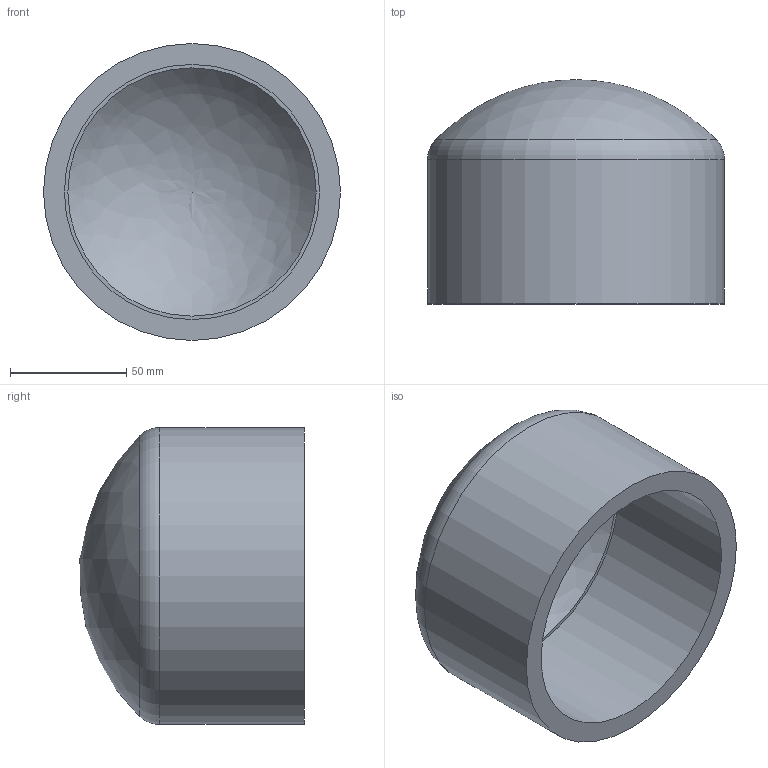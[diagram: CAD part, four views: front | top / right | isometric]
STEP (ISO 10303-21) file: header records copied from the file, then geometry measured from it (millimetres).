
FILE_DESCRIPTION(/* description */ ('PVC calotta incollaggio metrico'),/* implementation_level */ '2;1');
FILE_NAME(/* name */ 'C:\Users\POLYPIPE\Desktop\DATASET INVENTOR\LIBRERIA EFFAST\RACCORDI 3DxWEB\RDR\3D_RDRCAD\3D_RDRCAD1100.stp',/* time_stamp */ '2018-01-19T14:07:12+01:00',/* author */ ('POLYPIPE'),/* organization */ ('Polypipe Italia'),/* preprocessor_version */ 'ST-DEVELOPER v16.1',/* originating_system */ 'Autodesk Inventor 2016',/* authorisation */ '');
FILE_SCHEMA (('CONFIG_CONTROL_DESIGN'));
Length unit declared in the file: millimetre
Products named in the file (1): 3D_RDRCAD
Bounding box: 128 x 96.66 x 128 mm (x, y, z)
Volume: 351799.4 mm3; surface area: 78979.4 mm2
Topology: 1 solids, 1 shells, 7 faces, 12 edges, 8 vertices
Faces by surface type: cylinder 2, plane 2, torus 1, sphere 1, bspline 1
Full cylindrical faces by diameter (mm): 110 x1, 128 x1
Entity records: 198 total; most frequent: CARTESIAN_POINT 52, DIRECTION 28, ORIENTED_EDGE 16, AXIS2_PLACEMENT_3D 14, EDGE_LOOP 12, VERTEX_POINT 8, EDGE_CURVE 8, FACE_OUTER_BOUND 7
